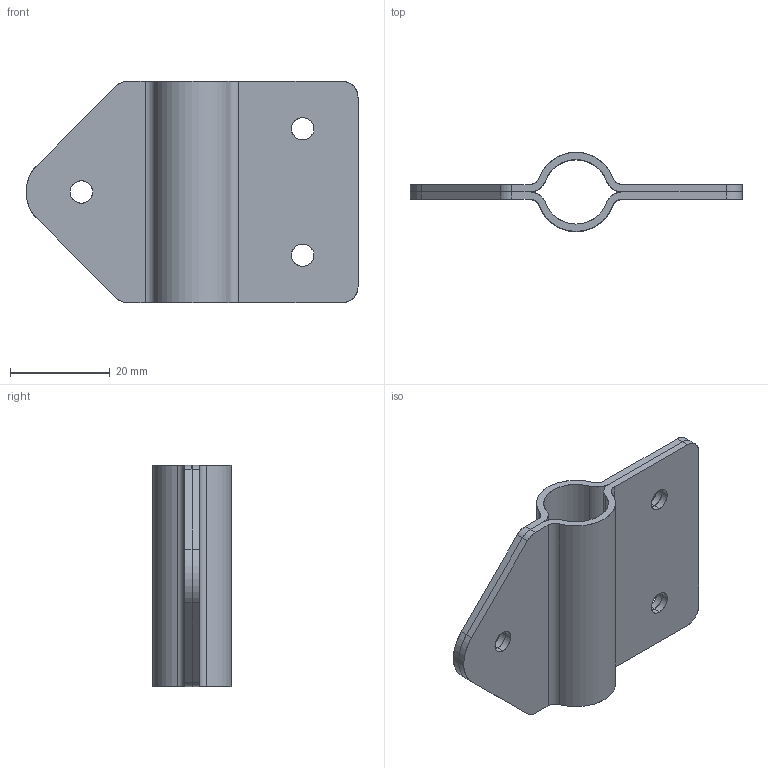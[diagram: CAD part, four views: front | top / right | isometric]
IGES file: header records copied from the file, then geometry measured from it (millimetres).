
Start section: SolidWorks IGES file using analytic representation for surfaces
Global section: file name: C:\Working\.5 Inch Coupling\DRP-002-0111-00.IGS; native system: SolidWorks 2010; preprocessor: SolidWorks 2010; author: mbush2; date: 100812.133158; units: inch
Bounding box: 66.67 x 15.88 x 44.45 mm (x, y, z)
Surface area: 11887.1 mm2 (no closed solid volume)
Topology: 0 solids, 0 shells, 52 faces, 956 edges, 956 vertices
Faces by surface type: revolution 34, bspline 18
